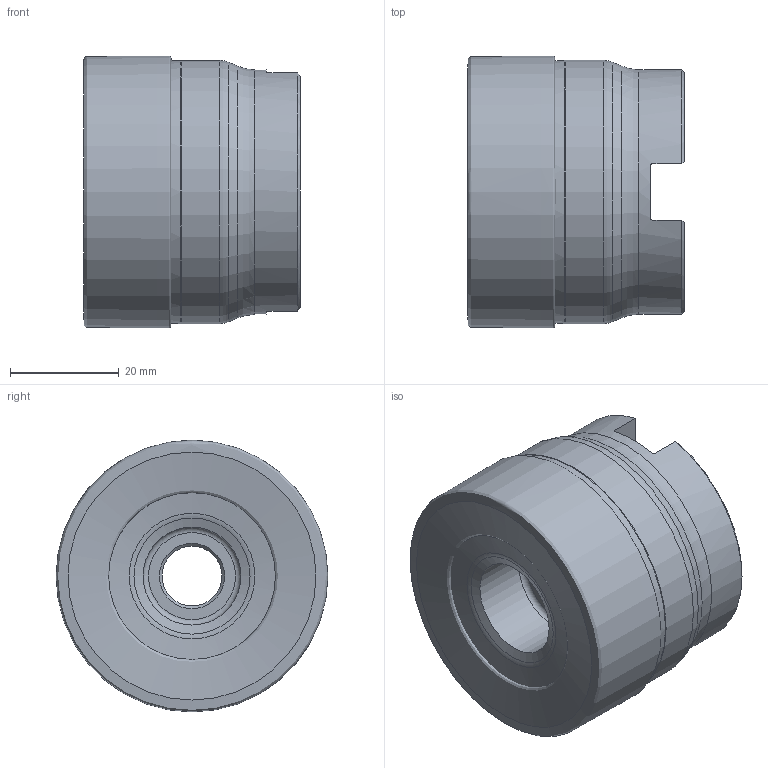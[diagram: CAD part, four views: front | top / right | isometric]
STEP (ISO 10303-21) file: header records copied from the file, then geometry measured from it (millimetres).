
FILE_DESCRIPTION(/* description */ (''),/* implementation_level */ '2;1');
FILE_NAME(/* name */ 'Stp.stp',/* time_stamp */ '2021-03-23T19:10:09+08:00',/* author */ (''),/* organization */ (''),/* preprocessor_version */ 'ST-DEVELOPER v16.7',/* originating_system */ 'SIEMENS PLM Software NX 12.0',/* authorisation */ '');
FILE_SCHEMA (('AUTOMOTIVE_DESIGN { 1 0 10303 214 3 1 1 1 }'));
Length unit declared in the file: millimetre
Products named in the file (2): APKT160408-ALH; EMP02-050-A22-AP16-05_S
Assembly tree (5 placements, depth 2):
  EMP02-050-A22-AP16-05_S
    APKT160408-ALH  x5
Bounding box: 39.87 x 49.97 x 49.99 mm (x, y, z)
Volume: 73945.2 mm3; surface area: 17606.6 mm2
Topology: 2 solids, 2 shells, 53 faces, 127 edges, 78 vertices
Faces by surface type: plane 18, cone 12, torus 11, cylinder 10, revolution 2
Full cylindrical faces by diameter (mm): 11 x1, 18 x1, 22 x1, 24 x1, 45 x1, 48.398 x1
Entity records: 1653 total; most frequent: CARTESIAN_POINT 523, DIRECTION 224, ORIENTED_EDGE 182, AXIS2_PLACEMENT_3D 99, EDGE_CURVE 91, EDGE_LOOP 80, VERTEX_POINT 67, FACE_BOUND 56
